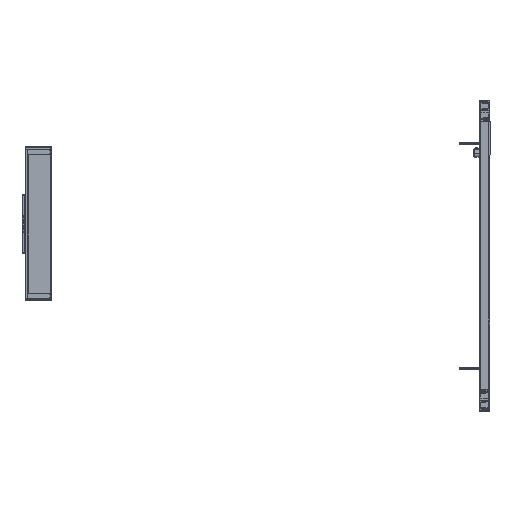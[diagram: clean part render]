
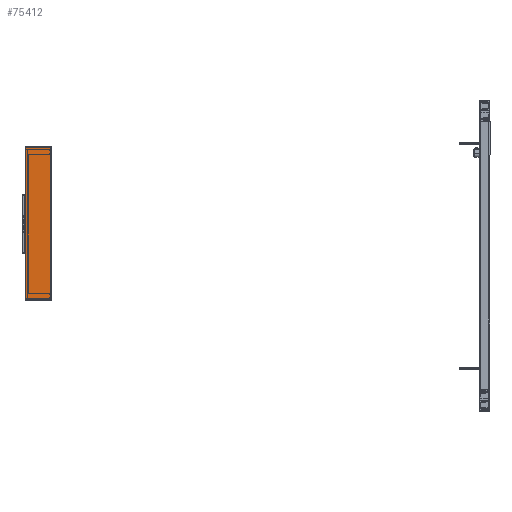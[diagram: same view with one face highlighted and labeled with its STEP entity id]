
A CAD part, top view. The second image highlights one B-rep face of the part: STEP entity #75412.
In plain terms, the highlighted planar face has unit normal (0, 0, 1) as drawn and (0, -1, 0) by its records, which use the part's own axes.
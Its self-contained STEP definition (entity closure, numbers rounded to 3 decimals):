
#917 = CARTESIAN_POINT ( 'NONE',  ( 50., -25., -142.5 ) ) ;
#1984 = LINE ( 'NONE', #917, #86336 ) ;
#2233 = LINE ( 'NONE', #37504, #24088 ) ;
#3806 = DIRECTION ( 'NONE',  ( 1., 0., 0. ) ) ;
#5838 = VERTEX_POINT ( 'NONE', #17708 ) ;
#13557 = FACE_OUTER_BOUND ( 'NONE', #64034, .T. ) ;
#16455 = DIRECTION ( 'NONE',  ( 1., 0., 0. ) ) ;
#17708 = CARTESIAN_POINT ( 'NONE',  ( 0., -25., 142.5 ) ) ;
#21848 = EDGE_CURVE ( 'NONE', #48778, #5838, #2233, .T. ) ;
#22007 = VECTOR ( 'NONE', #3806, 1000. ) ;
#23769 = EDGE_CURVE ( 'NONE', #48778, #50471, #1984, .T. ) ;
#24088 = VECTOR ( 'NONE', #84108, 1000. ) ;
#27675 = AXIS2_PLACEMENT_3D ( 'NONE', #42971, #56382, #16455 ) ;
#33617 = ORIENTED_EDGE ( 'NONE', *, *, #44835, .T. ) ;
#33977 = ORIENTED_EDGE ( 'NONE', *, *, #23769, .T. ) ;
#35279 = ORIENTED_EDGE ( 'NONE', *, *, #55652, .F. ) ;
#37504 = CARTESIAN_POINT ( 'NONE',  ( 0., -25., -142.5 ) ) ;
#37923 = VERTEX_POINT ( 'NONE', #85206 ) ;
#42971 = CARTESIAN_POINT ( 'NONE',  ( 50., -25., -142.5 ) ) ;
#43837 = VECTOR ( 'NONE', #46069, 1000. ) ;
#43907 = LINE ( 'NONE', #70155, #22007 ) ;
#44835 = EDGE_CURVE ( 'NONE', #50471, #37923, #45928, .T. ) ;
#45639 = CARTESIAN_POINT ( 'NONE',  ( 50., -25., -142.5 ) ) ;
#45928 = LINE ( 'NONE', #52763, #43837 ) ;
#45990 = ORIENTED_EDGE ( 'NONE', *, *, #21848, .F. ) ;
#46069 = DIRECTION ( 'NONE',  ( 0., 0., 1. ) ) ;
#48778 = VERTEX_POINT ( 'NONE', #78003 ) ;
#50471 = VERTEX_POINT ( 'NONE', #45639 ) ;
#52763 = CARTESIAN_POINT ( 'NONE',  ( 50., -25., -142.5 ) ) ;
#55652 = EDGE_CURVE ( 'NONE', #5838, #37923, #43907, .T. ) ;
#56382 = DIRECTION ( 'NONE',  ( 0., -1., 0. ) ) ;
#64034 = EDGE_LOOP ( 'NONE', ( #33617, #35279, #45990, #33977 ) ) ;
#70155 = CARTESIAN_POINT ( 'NONE',  ( 50., -25., 142.5 ) ) ;
#74271 = DIRECTION ( 'NONE',  ( 1., 0., 0. ) ) ;
#75412 = ADVANCED_FACE ( 'NONE', ( #13557 ), #76233, .T. ) ;
#76233 = PLANE ( 'NONE',  #27675 ) ;
#78003 = CARTESIAN_POINT ( 'NONE',  ( 0., -25., -142.5 ) ) ;
#84108 = DIRECTION ( 'NONE',  ( 0., 0., 1. ) ) ;
#85206 = CARTESIAN_POINT ( 'NONE',  ( 50., -25., 142.5 ) ) ;
#86336 = VECTOR ( 'NONE', #74271, 1000. ) ;
